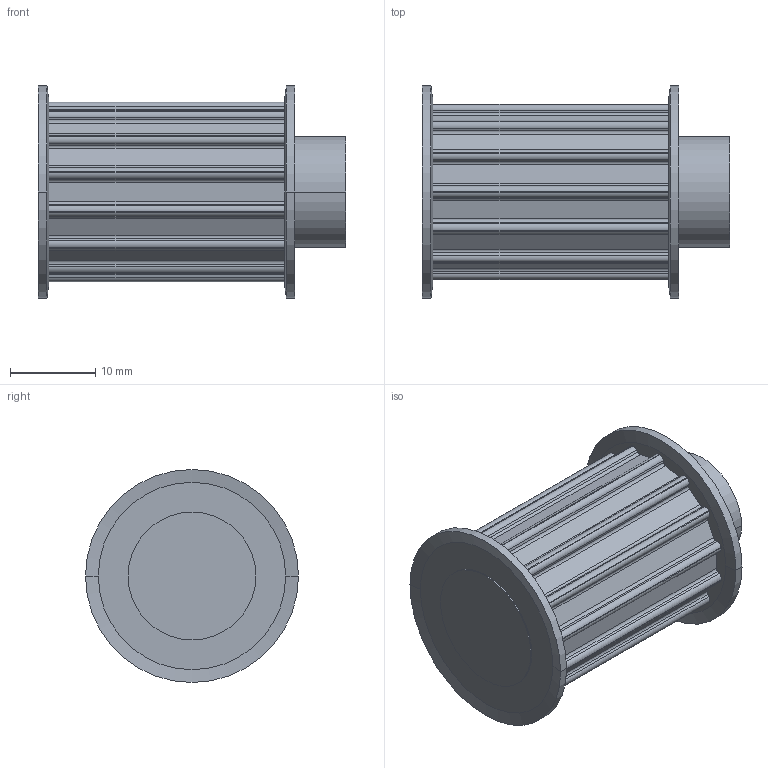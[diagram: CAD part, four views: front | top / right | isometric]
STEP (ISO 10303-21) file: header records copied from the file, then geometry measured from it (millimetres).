
FILE_DESCRIPTION( ( '' ), '1' );
FILE_NAME( 'C:/Users/Stangenbergd/Documents/CAD_Step/1/16641400.stp', '2021-10-19T09:37:36', ( '' ), ( '' ), ' ', ' ', ' ' );
FILE_SCHEMA( ( 'CONFIG_CONTROL_DESIGN' ) );
Length unit declared in the file: millimetre
Products named in the file (1): 1
Bounding box: 36.06 x 25 x 25 mm (x, y, z)
Volume: 10153.6 mm3; surface area: 3913.3 mm2
Topology: 1 solids, 1 shells, 137 faces, 382 edges, 252 vertices
Faces by surface type: cylinder 80, plane 49, cone 8
Entity records: 4504 total; most frequent: DIRECTION 826, CARTESIAN_POINT 772, ORIENTED_EDGE 764, EDGE_CURVE 382, AXIS2_PLACEMENT_3D 306, VERTEX_POINT 252, LINE 214, VECTOR 214
